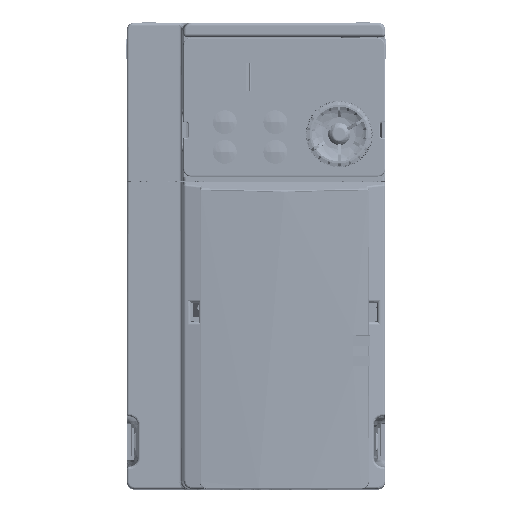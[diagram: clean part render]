
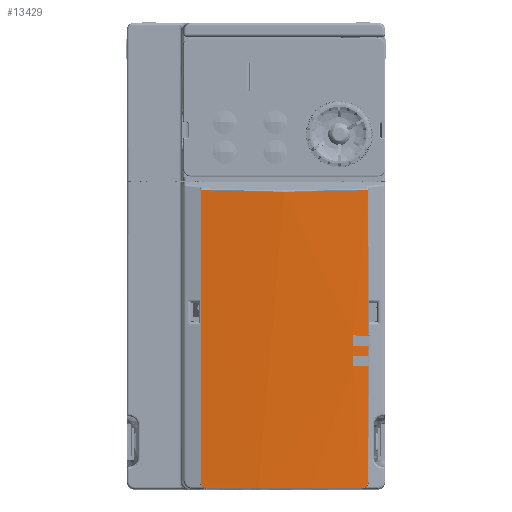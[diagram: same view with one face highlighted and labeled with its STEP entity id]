
A CAD part, top view. The second image highlights one B-rep face of the part: STEP entity #13429.
In plain terms, the highlighted cylindrical face has radius 370 mm (diameter 740 mm), a partial arc.
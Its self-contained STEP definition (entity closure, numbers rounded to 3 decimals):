
#2030=CARTESIAN_POINT('',(37.602,100.564,165.931));
#2041=CARTESIAN_POINT('',(-18.663,100.293,165.927));
#2042=CARTESIAN_POINT('',(-18.663,100.327,165.927));
#2043=CARTESIAN_POINT('',(-18.658,100.393,165.927));
#2044=CARTESIAN_POINT('',(-18.637,100.484,165.929));
#2045=CARTESIAN_POINT('',(-18.615,100.538,165.93));
#2046=CARTESIAN_POINT('',(-18.603,100.564,165.931));
#2048=CARTESIAN_POINT('',(-18.603,100.564,165.931));
#2049=CARTESIAN_POINT('',(-12.372,100.29,166.406));
#2050=CARTESIAN_POINT('',(0.115,99.924,167.04));
#2051=CARTESIAN_POINT('',(18.885,99.924,167.04));
#2052=CARTESIAN_POINT('',(31.372,100.29,166.406));
#2053=CARTESIAN_POINT('',(37.602,100.564,165.931));
#2055=CARTESIAN_POINT('',(37.602,100.564,165.931));
#2056=CARTESIAN_POINT('',(37.615,100.538,165.93));
#2057=CARTESIAN_POINT('',(37.637,100.482,165.929));
#2058=CARTESIAN_POINT('',(37.658,100.391,165.927));
#2059=CARTESIAN_POINT('',(37.663,100.326,165.927));
#2060=CARTESIAN_POINT('',(37.663,100.293,165.927));
#2062=DIRECTION('',(0.,-1.,0.));
#2063=VECTOR('',#2062,48.569);
#2064=CARTESIAN_POINT('',(37.663,100.293,165.927));
#2065=LINE('',#2064,#2063);
#2066=DIRECTION('',(0.,-1.,0.));
#2067=VECTOR('',#2066,38.776);
#2068=CARTESIAN_POINT('',(37.663,41.276,165.927));
#2069=LINE('',#2068,#2067);
#2070=CARTESIAN_POINT('',(37.663,2.5,165.927));
#2071=CARTESIAN_POINT('',(37.662,2.306,165.927));
#2072=CARTESIAN_POINT('',(37.612,1.933,165.93));
#2073=CARTESIAN_POINT('',(37.387,1.39,165.948));
#2074=CARTESIAN_POINT('',(37.042,0.935,165.974));
#2075=CARTESIAN_POINT('',(36.579,0.581,166.008));
#2076=CARTESIAN_POINT('',(36.037,0.354,166.047));
#2077=CARTESIAN_POINT('',(35.651,0.302,166.075));
#2078=CARTESIAN_POINT('',(35.45,0.3,166.089));
#2080=CARTESIAN_POINT('',(-16.45,0.3,
166.089));
#2081=CARTESIAN_POINT('',(-16.649,0.302,
166.075));
#2082=CARTESIAN_POINT('',(-17.031,0.353,
166.048));
#2083=CARTESIAN_POINT('',(-17.572,0.577,
166.008));
#2084=CARTESIAN_POINT('',(-18.037,0.93,
165.974));
#2085=CARTESIAN_POINT('',(-18.385,1.387,165.948));
#2086=CARTESIAN_POINT('',(-18.612,1.931,165.931));
#2087=CARTESIAN_POINT('',(-18.662,2.306,165.927));
#2088=CARTESIAN_POINT('',(-18.663,2.5,165.927));
#2090=DIRECTION('',(0.,1.,0.));
#2091=VECTOR('',#2090,97.793);
#2092=CARTESIAN_POINT('',(-18.663,2.5,165.927));
#2093=LINE('',#2092,#2091);
#4365=CARTESIAN_POINT('',(37.663,41.276,165.927));
#4366=CARTESIAN_POINT('',(37.118,41.275,165.968));
#4367=CARTESIAN_POINT('',(36.027,41.276,166.049));
#4368=CARTESIAN_POINT('',(34.39,41.273,166.163));
#4369=CARTESIAN_POINT('',(33.299,41.274,166.234));
#4370=CARTESIAN_POINT('',(32.753,41.273,166.269));
#4818=DIRECTION('',(0.,1.,0.));
#4819=VECTOR('',#4818,3.573);
#4820=CARTESIAN_POINT('',(32.753,41.273,166.269));
#4821=LINE('',#4820,#4819);
#4857=DIRECTION('',(0.,1.,0.));
#4858=VECTOR('',#4857,3.573);
#4859=CARTESIAN_POINT('',(32.753,48.154,166.269));
#4860=LINE('',#4859,#4858);
#4984=CARTESIAN_POINT('',(37.663,48.155,165.927));
#4985=CARTESIAN_POINT('',(37.118,48.155,165.968));
#4986=CARTESIAN_POINT('',(36.027,48.155,166.049));
#4987=CARTESIAN_POINT('',(34.39,48.153,166.163));
#4988=CARTESIAN_POINT('',(33.299,48.154,166.234));
#4989=CARTESIAN_POINT('',(32.753,48.154,166.269));
#5009=CARTESIAN_POINT('',(32.753,44.846,166.269));
#5010=CARTESIAN_POINT('',(33.299,44.846,166.234));
#5011=CARTESIAN_POINT('',(34.39,44.847,166.163));
#5012=CARTESIAN_POINT('',(36.027,44.845,166.049));
#5013=CARTESIAN_POINT('',(37.118,44.845,165.968));
#5014=CARTESIAN_POINT('',(37.663,44.845,165.927));
#5167=CARTESIAN_POINT('',(32.753,51.727,166.269));
#5168=CARTESIAN_POINT('',(33.299,51.726,166.234));
#5169=CARTESIAN_POINT('',(34.39,51.727,166.163));
#5170=CARTESIAN_POINT('',(36.027,51.724,166.049));
#5171=CARTESIAN_POINT('',(37.118,51.725,165.968));
#5172=CARTESIAN_POINT('',(37.663,51.724,165.927));
#5515=DIRECTION('',(0.,1.,0.));
#5516=VECTOR('',#5515,3.31);
#5517=CARTESIAN_POINT('',(37.663,44.845,165.927));
#5518=LINE('',#5517,#5516);
#5711=CARTESIAN_POINT('',(9.5,0.3,-203.));
#5712=DIRECTION('',(0.,1.,0.));
#5713=DIRECTION('',(-0.07,0.,0.998));
#5714=AXIS2_PLACEMENT_3D('',#5711,#5712,#5713);
#10105=VERTEX_POINT('',#2030);
#10106=CARTESIAN_POINT('',(37.663,100.293,165.927));
#10107=VERTEX_POINT('',#10106);
#10108=CARTESIAN_POINT('',(37.663,51.724,165.927));
#10109=VERTEX_POINT('',#10108);
#10110=VERTEX_POINT('',#2041);
#10111=VERTEX_POINT('',#2046);
#10112=VERTEX_POINT('',#5167);
#10113=CARTESIAN_POINT('',(32.753,48.154,166.269));
#10114=VERTEX_POINT('',#10113);
#10115=VERTEX_POINT('',#4984);
#10116=CARTESIAN_POINT('',(37.663,44.845,165.927));
#10117=VERTEX_POINT('',#10116);
#10118=VERTEX_POINT('',#5009);
#10119=CARTESIAN_POINT('',(32.753,41.273,166.269));
#10120=VERTEX_POINT('',#10119);
#10121=VERTEX_POINT('',#4365);
#10122=CARTESIAN_POINT('',(37.663,2.5,165.927));
#10123=VERTEX_POINT('',#10122);
#10124=VERTEX_POINT('',#2078);
#10125=CARTESIAN_POINT('',(-16.45,0.3,166.089));
#10126=VERTEX_POINT('',#10125);
#10127=VERTEX_POINT('',#2088);
#13392=CARTESIAN_POINT('',(9.5,0.,-203.));
#13393=DIRECTION('',(0.,1.,0.));
#13394=DIRECTION('',(-1.,0.,0.));
#13395=AXIS2_PLACEMENT_3D('',#13392,#13393,#13394);
#13396=CYLINDRICAL_SURFACE('',#13395,370.);
#13398=ORIENTED_EDGE('',*,*,#13397,.T.);
#13400=ORIENTED_EDGE('',*,*,#13399,.T.);
#13401=ORIENTED_EDGE('',*,*,#13359,.T.);
#13402=ORIENTED_EDGE('',*,*,#13376,.T.);
#13404=ORIENTED_EDGE('',*,*,#13403,.F.);
#13406=ORIENTED_EDGE('',*,*,#13405,.F.);
#13408=ORIENTED_EDGE('',*,*,#13407,.F.);
#13410=ORIENTED_EDGE('',*,*,#13409,.F.);
#13412=ORIENTED_EDGE('',*,*,#13411,.F.);
#13414=ORIENTED_EDGE('',*,*,#13413,.F.);
#13416=ORIENTED_EDGE('',*,*,#13415,.F.);
#13418=ORIENTED_EDGE('',*,*,#13417,.T.);
#13420=ORIENTED_EDGE('',*,*,#13419,.T.);
#13422=ORIENTED_EDGE('',*,*,#13421,.F.);
#13424=ORIENTED_EDGE('',*,*,#13423,.T.);
#13426=ORIENTED_EDGE('',*,*,#13425,.T.);
#13427=EDGE_LOOP('',(#13398,#13400,#13401,#13402,#13404,#13406,#13408,#13410,
#13412,#13414,#13416,#13418,#13420,#13422,#13424,#13426));
#13428=FACE_OUTER_BOUND('',#13427,.F.);
#2047=B_SPLINE_CURVE_WITH_KNOTS('',3,(#2041,#2042,#2043,#2044,#2045,#2046),
.UNSPECIFIED.,.F.,.F.,(4,1,1,4),(0.,0.333,0.667,1.),
.UNSPECIFIED.);
#2054=B_SPLINE_CURVE_WITH_KNOTS('',3,(#2048,#2049,#2050,#2051,#2052,#2053),
.UNSPECIFIED.,.F.,.F.,(4,1,1,4),(0.,0.333,0.667,1.),
.UNSPECIFIED.);
#2061=B_SPLINE_CURVE_WITH_KNOTS('',3,(#2055,#2056,#2057,#2058,#2059,#2060),
.UNSPECIFIED.,.F.,.F.,(4,1,1,4),(0.,0.333,0.667,1.),
.UNSPECIFIED.);
#2079=B_SPLINE_CURVE_WITH_KNOTS('',3,(#2070,#2071,#2072,#2073,#2074,#2075,#2076,
#2077,#2078),.UNSPECIFIED.,.F.,.F.,(4,1,1,1,1,1,4),(0.,0.167,
0.333,0.5,0.667,0.833,1.),
.UNSPECIFIED.);
#2089=B_SPLINE_CURVE_WITH_KNOTS('',3,(#2080,#2081,#2082,#2083,#2084,#2085,#2086,
#2087,#2088),.UNSPECIFIED.,.F.,.F.,(4,1,1,1,1,1,4),(0.,0.167,
0.333,0.5,0.667,0.833,1.),
.UNSPECIFIED.);
#4371=B_SPLINE_CURVE_WITH_KNOTS('',3,(#4365,#4366,#4367,#4368,#4369,#4370),
.UNSPECIFIED.,.F.,.F.,(4,1,1,4),(0.,0.333,0.667,1.),
.UNSPECIFIED.);
#4990=B_SPLINE_CURVE_WITH_KNOTS('',3,(#4984,#4985,#4986,#4987,#4988,#4989),
.UNSPECIFIED.,.F.,.F.,(4,1,1,4),(0.,0.333,0.667,1.),
.UNSPECIFIED.);
#5015=B_SPLINE_CURVE_WITH_KNOTS('',3,(#5009,#5010,#5011,#5012,#5013,#5014),
.UNSPECIFIED.,.F.,.F.,(4,1,1,4),(0.,0.333,0.667,1.),
.UNSPECIFIED.);
#5173=B_SPLINE_CURVE_WITH_KNOTS('',3,(#5167,#5168,#5169,#5170,#5171,#5172),
.UNSPECIFIED.,.F.,.F.,(4,1,1,4),(0.,0.333,0.667,1.),
.UNSPECIFIED.);
#5715=CIRCLE('',#5714,370.);
#13359=EDGE_CURVE('',#10105,#10107,#2061,.T.);
#13376=EDGE_CURVE('',#10107,#10109,#2065,.T.);
#13397=EDGE_CURVE('',#10110,#10111,#2047,.T.);
#13399=EDGE_CURVE('',#10111,#10105,#2054,.T.);
#13403=EDGE_CURVE('',#10112,#10109,#5173,.T.);
#13405=EDGE_CURVE('',#10114,#10112,#4860,.T.);
#13407=EDGE_CURVE('',#10115,#10114,#4990,.T.);
#13409=EDGE_CURVE('',#10117,#10115,#5518,.T.);
#13411=EDGE_CURVE('',#10118,#10117,#5015,.T.);
#13413=EDGE_CURVE('',#10120,#10118,#4821,.T.);
#13415=EDGE_CURVE('',#10121,#10120,#4371,.T.);
#13417=EDGE_CURVE('',#10121,#10123,#2069,.T.);
#13419=EDGE_CURVE('',#10123,#10124,#2079,.T.);
#13421=EDGE_CURVE('',#10126,#10124,#5715,.T.);
#13423=EDGE_CURVE('',#10126,#10127,#2089,.T.);
#13425=EDGE_CURVE('',#10127,#10110,#2093,.T.);
#13429=ADVANCED_FACE('',(#13428),#13396,.T.);
